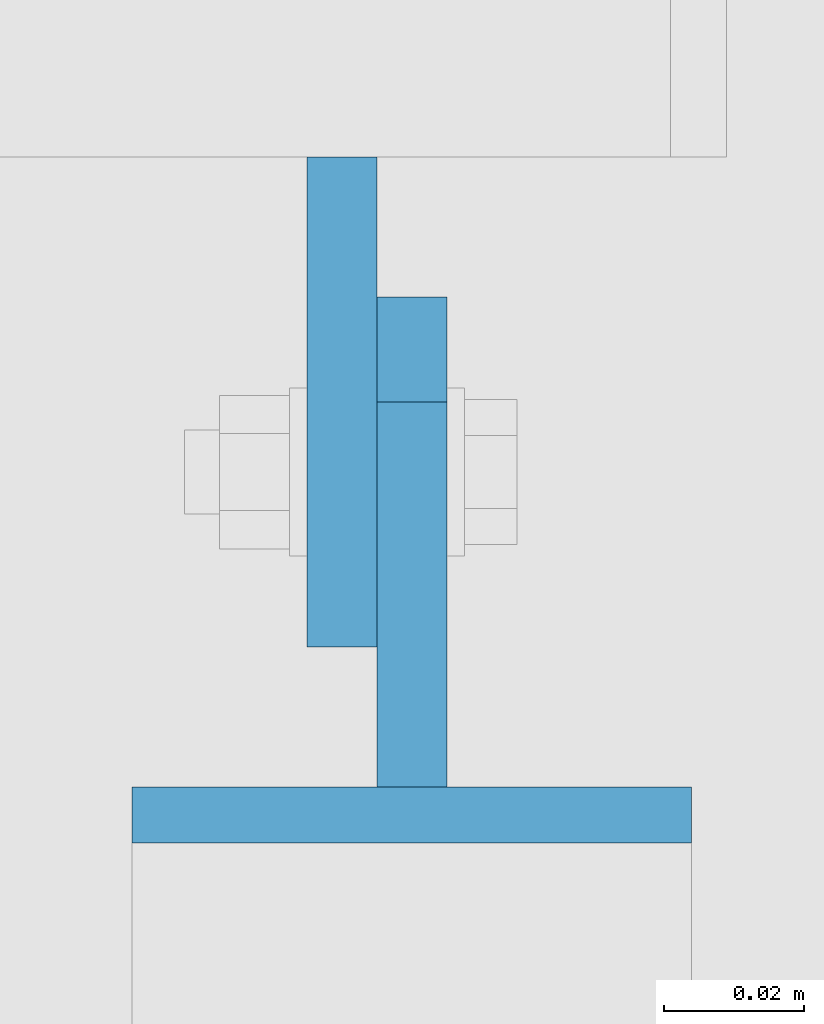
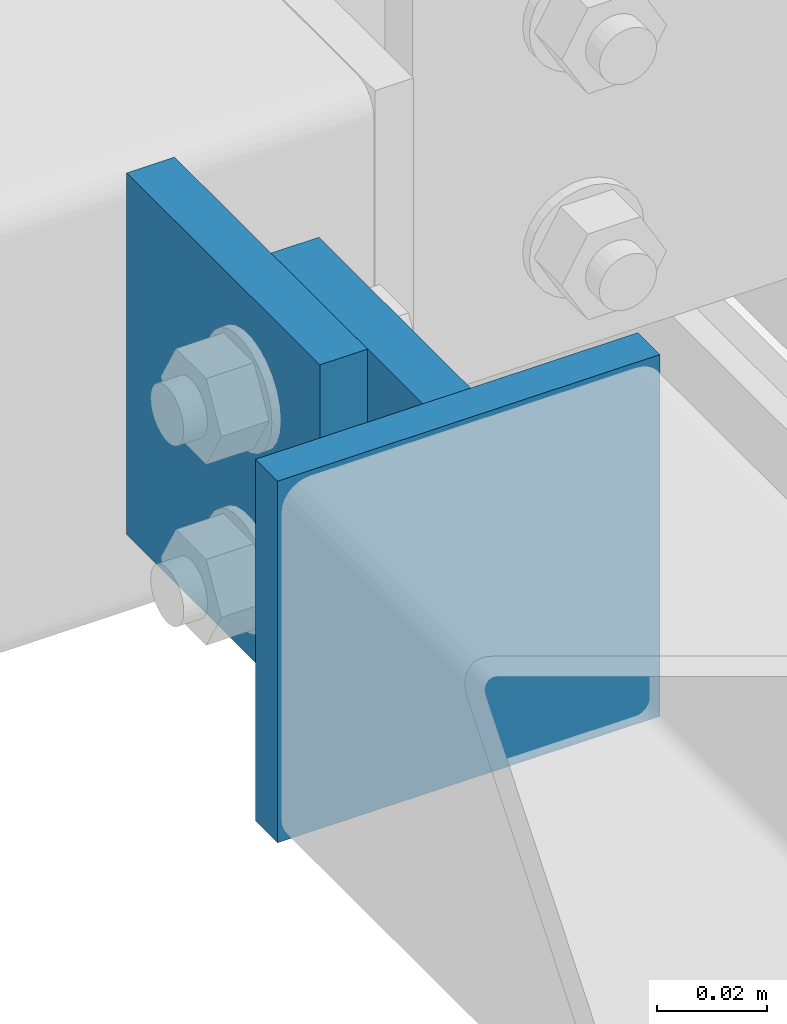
# One storey, part 123 of 271: 3 plates, 2 elements without a shape of their own.
"""IFC2X3 building model written with IfcOpenShell, lengths in millimetres."""

from ifc_helpers import new_model, si_unit, frame, origin_with_axes, place, context, subcontext, project, spatial, polyline, outline, extrude, material, type_object, element, aggregate, save


model = new_model("IFC2X3")

# Units and contexts
model_context = context("Model", 3, precision=1e-05, world=origin_with_axes())
body_context = subcontext(model_context, "Body", "Model", "MODEL_VIEW")
ifc_project = project(units=[si_unit("LENGTHUNIT", "METRE", prefix="MILLI"), si_unit("AREAUNIT", "SQUARE_METRE"), si_unit("VOLUMEUNIT", "CUBIC_METRE"), si_unit("MASSUNIT", "GRAM", prefix="KILO"), si_unit("TIMEUNIT", "SECOND"), si_unit("PLANEANGLEUNIT", "RADIAN"), si_unit("SOLIDANGLEUNIT", "STERADIAN"), si_unit("THERMODYNAMICTEMPERATUREUNIT", "DEGREE_CELSIUS"), si_unit("LUMINOUSINTENSITYUNIT", "LUMEN")], contexts=[model_context])

# Site, building, storey
site_placement = place(None, origin_with_axes())
site = spatial("IfcSite", under=ifc_project, at=site_placement, Name="Undefined", CompositionType="ELEMENT")
building_placement = place(site_placement, origin_with_axes())
building = spatial("IfcBuilding", under=site, at=building_placement, Name="Undefined", CompositionType="ELEMENT")
storey_placement = place(building_placement, origin_with_axes())
storey = spatial("IfcBuildingStorey", under=building, at=storey_placement, Name="Undefined", CompositionType="ELEMENT", Elevation=0.0)

# Assembly, plate
assembly_1_placement = place(storey_placement, origin_with_axes())
assembly_1 = element("IfcElementAssembly", 1, at=assembly_1_placement, inside=storey, AssemblyPlace="NOTDEFINED", PredefinedType="RIGID_FRAME")
ifc_material = material(Name="STEEL/S355JR")
plate_type_1 = type_object("IfcPlateType", Name="BL10*70", PredefinedType="NOTDEFINED")
plate_1_placement = place(assembly_1_placement, frame((6143.37568709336, 2714.32498425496, 20124.3499999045), z_axis=(1.0, 0.0, 0.0), x_axis=(0.0, 0.707106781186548, 0.707106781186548)))
plate_1 = element("IfcPlate", 2, at=plate_1_placement, type_object=plate_type_1, material=ifc_material, Name="BLACHA", ObjectType="BL10*70", context=body_context, shape_type="SweptSolid", body=[
    extrude(outline(polyline([(0.0, 0.0), (21.2132034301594, 1.09139364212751e-11), (56.5685424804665, 35.3553390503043), (56.568542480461, 56.5685424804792), (17.6776695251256, 95.4594192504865), (-38.890872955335, 38.8908729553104), (0.0, 0.0)])), frame((0.0, 0.0, -5.0), z_axis=(0.0, 0.0, 1.0), x_axis=(1.0, 0.0, 0.0)), (0.0, 0.0, 1.0), 10.0),
])

assembly_2_placement = place(storey_placement, origin_with_axes())
assembly_2 = element("IfcElementAssembly", 3, at=assembly_2_placement, inside=storey, AssemblyPlace="NOTDEFINED", PredefinedType="RIGID_FRAME")
plate_2_placement = place(assembly_2_placement, frame((6133.37568709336, 2749.32498425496, 20124.3499999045), z_axis=(1.0, 0.0, 0.0), x_axis=(0.0, 0.0, 1.0)))
plate_2 = element("IfcPlate", 4, at=plate_2_placement, type_object=plate_type_1, material=ifc_material, Name="BLACHA", ObjectType="BL10*70", context=body_context, shape_type="SweptSolid", body=[
    extrude(outline(polyline([(0.0, 0.0), (80.0, 0.0), (80.0, 70.0), (0.0, 70.0), (0.0, 0.0)])), frame((0.0, 0.0, -5.0), z_axis=(0.0, 0.0, 1.0), x_axis=(1.0, 0.0, 0.0)), (0.0, 0.0, 1.0), 10.0),
])
aggregate(assembly_2, [plate_2])

# Plate
plate_type_2 = type_object("IfcPlateType", Name="BL8*80", PredefinedType="NOTDEFINED")
plate_3_placement = place(assembly_1_placement, frame((6103.37568709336, 2655.32498425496, 20124.3499999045), z_axis=(0.0, 1.0, 0.0), x_axis=(0.0, 0.0, 1.0)))
plate_3 = element("IfcPlate", 5, at=plate_3_placement, type_object=plate_type_2, material=ifc_material, Name="BLACHA", ObjectType="BL8*80", context=body_context, shape_type="SweptSolid", body=[
    extrude(outline(polyline([(0.0, 0.0), (80.0, 0.0), (80.0, 80.0), (0.0, 80.0), (0.0, 0.0)])), frame((0.0, 0.0, -4.0), z_axis=(0.0, 0.0, 1.0), x_axis=(1.0, 0.0, 0.0)), (0.0, 0.0, 1.0), 8.0),
])

aggregate(assembly_1, [plate_3, plate_1])

save(model, "model.ifc")
